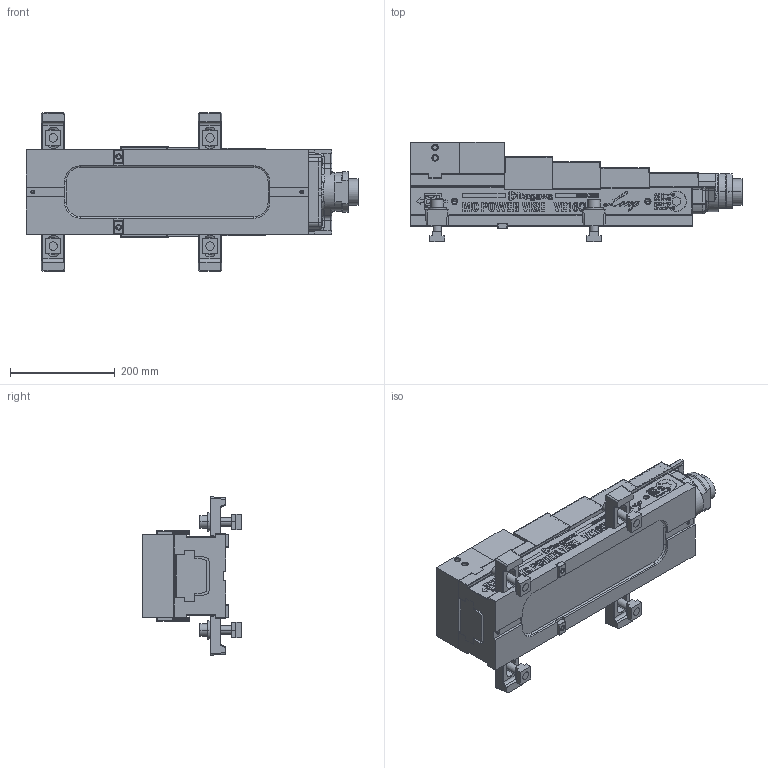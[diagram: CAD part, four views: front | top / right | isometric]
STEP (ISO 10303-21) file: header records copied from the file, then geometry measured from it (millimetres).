
FILE_DESCRIPTION (( 'STEP AP214' ), '1' );
FILE_NAME ('VE160LN_C.STEP', '2023-08-04T06:43:21', ( '' ), ( '' ), 'SwSTEP 2.0', 'SolidWorks 2020', '' );
FILE_SCHEMA (( 'AUTOMOTIVE_DESIGN' ));
Length unit declared in the file: millimetre
Products named in the file (21): エンドカバー(61M4625110)VE160N; 僒僀僪僔乕儖R(61M2680380); カバーリング(61M4399252)VE160N; 僕儑乕F(61M3963590)VE160N; 僗儔僀僪僇僶乕W(61M3593323)VE160L; リボルバ部; 僕儑乕M(61俵3963600)VE160N; クランプクミタテ(61M420565); T僗儘僢僩僫僢僩俿俶俵侾俉侾俇; ガイドブロック(61M4197783); VE160LN_C; 僗儔僀僪僇僶乕Z(61M3523324)VE160; 僗儔僀僪僇僶乕X(61M3593344)VE160L; 僗儔僀僪僇僶乕Y(61M3523315)VE160; スプリングケース(61M2367022)VE160; Bアナツキ M16×65; クランプ(61M3159626)VP160; 僒僀僪僔乕儖L(61M2680390); ボデー(61M2402834)VE160L; VE160LNホンタイ; 儚僢僔儍丂16乮61M4266330乯
Assembly tree (24 placements, depth 3):
  VE160LN_C
    VE160LNホンタイ
      ボデー(61M2402834)VE160L
      ガイドブロック(61M4197783)  x2
      僕儑乕F(61M3963590)VE160N
      スプリングケース(61M2367022)VE160
      カバーリング(61M4399252)VE160N
      リボルバ部
      エンドカバー(61M4625110)VE160N
      僕儑乕M(61俵3963600)VE160N
      僗儔僀僪僇僶乕Y(61M3523315)VE160
      僗儔僀僪僇僶乕Z(61M3523324)VE160
      僗儔僀僪僇僶乕W(61M3593323)VE160L
      僗儔僀僪僇僶乕X(61M3593344)VE160L
      僒僀僪僔乕儖L(61M2680390)
      僒僀僪僔乕儖R(61M2680380)
    クランプクミタテ(61M420565)  x4
      クランプ(61M3159626)VP160
      儚僢僔儍丂16乮61M4266330乯
      Bアナツキ M16×65
      T僗儘僢僩僫僢僩俿俶俵侾俉侾俇
Bounding box: 635 x 190 x 303 mm (x, y, z)
Volume: 10783037.2 mm3; surface area: 1002237.1 mm2
Topology: 31 solids, 31 shells, 1225 faces, 6294 edges, 5437 vertices
Faces by surface type: plane 848, cylinder 263, cone 79, torus 21, bspline 14
Entity records: 70933 total; most frequent: CARTESIAN_POINT 18878, ORIENTED_EDGE 11522, DIRECTION 7851, EDGE_CURVE 5761, VERTEX_POINT 5107, LINE 4725, VECTOR 4725, AXIS2_PLACEMENT_3D 1563
